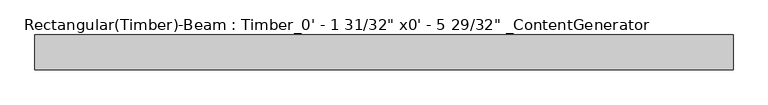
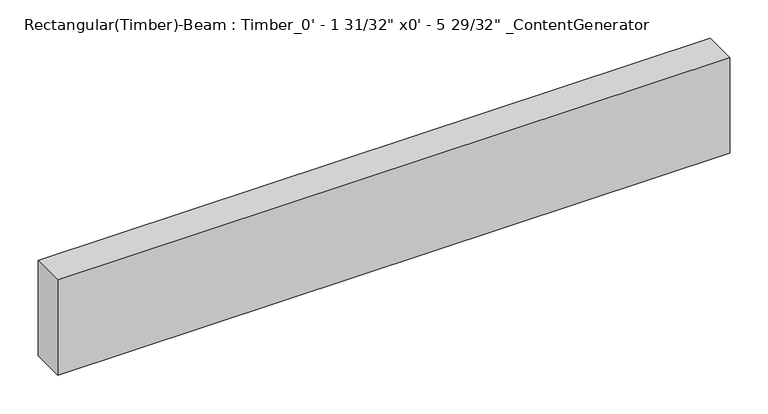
"""IFC4 building model written with IfcOpenShell, lengths in millimetres: beam geometry."""

from ifc_helpers import new_model, si_unit, frame, origin, place, context, project, spatial, polyline, outline, extrude, source, transform, mapped, element, save


def beam_62b04b6a(model_context):
    return source(origin(), model_context, "Body", "SweptSolid", [
        extrude(outline(polyline([(506.1534875, 25.4), (506.1534875, -25.4), (-506.1534875, -25.4), (-506.1534875, 25.4), (506.1534875, 25.4)])), frame((0.0, 0.0, -76.2), z_axis=(0.0, 0.0, 1.0), x_axis=(1.0, 0.0, 0.0)), (0.0, 0.0, 1.0), 152.4),
    ])


if __name__ == "__main__":
    model = new_model("IFC4")
    model_context = context("Model", 3, world=origin())
    ifc_project = project(units=[si_unit("LENGTHUNIT", "METRE", prefix="MILLI")], contexts=[model_context])
    site = spatial("IfcSite", under=ifc_project)
    building = spatial("IfcBuilding", under=site)
    placement = place(None, origin())
    beam_shape = beam_62b04b6a(model_context)
    element("IfcBeam", 1, ObjectType="Rectangular(Timber)-Beam : Timber_0' - 1 31/32\" x0' - 5 29/32\" _ContentGenerator", at=placement, inside=building, context=model_context, shape_type="MappedRepresentation", body=[
        mapped(beam_shape, transform((0.0, 0.0, 0.0), x_axis=(1.0, 0.0, 0.0), y_axis=(0.0, 1.0, 0.0), z_axis=(0.0, 0.0, 1.0))),
    ])
    save(model, "model.ifc")
